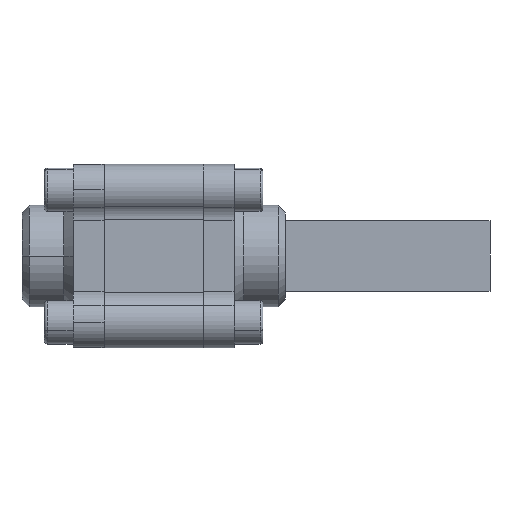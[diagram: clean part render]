
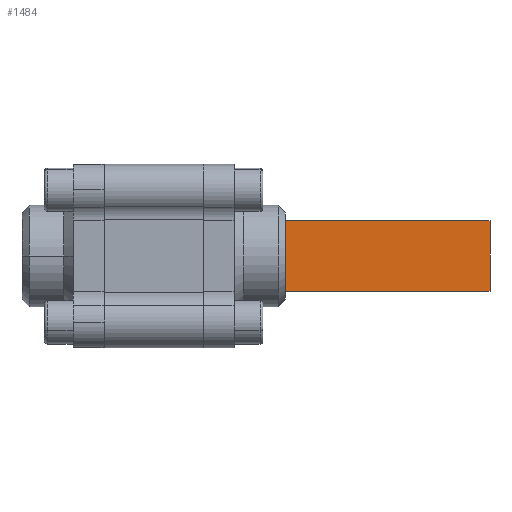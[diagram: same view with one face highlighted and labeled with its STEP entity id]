
A CAD part, front view. The second image highlights one B-rep face of the part: STEP entity #1484.
In plain terms, the highlighted planar face has unit normal (0, -1, 0).
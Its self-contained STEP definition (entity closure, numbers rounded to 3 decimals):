
#147 = AXIS2_PLACEMENT_3D ( 'NONE', #6425, #6435, #6436 ) ;
#557 = EDGE_LOOP ( 'NONE', ( #7184, #7185, #7186, #7187 ) ) ;
#1484 = ADVANCED_FACE ( 'NONE', ( #2011 ), #6426, .T. ) ;
#2011 = FACE_OUTER_BOUND ( 'NONE', #557, .T. ) ;
#2687 = LINE ( 'NONE', #4959, #2727 ) ;
#2712 = LINE ( 'NONE', #4955, #2722 ) ;
#2713 = LINE ( 'NONE', #4951, #2718 ) ;
#2718 = VECTOR ( 'NONE', #4956, 1000. ) ;
#2722 = VECTOR ( 'NONE', #4960, 1000. ) ;
#2727 = VECTOR ( 'NONE', #4966, 1000. ) ;
#2733 = LINE ( 'NONE', #4974, #2734 ) ;
#2734 = VECTOR ( 'NONE', #4975, 1000. ) ;
#3667 = CARTESIAN_POINT ( 'NONE',  ( 54.749, 23.749, -14.7 ) ) ;
#3670 = CARTESIAN_POINT ( 'NONE',  ( 139.749, 23.749, 14.7 ) ) ;
#3674 = CARTESIAN_POINT ( 'NONE',  ( 54.749, 23.749, 14.7 ) ) ;
#3678 = CARTESIAN_POINT ( 'NONE',  ( 139.749, 23.749, -14.7 ) ) ;
#4784 = EDGE_CURVE ( 'NONE', #6772, #6768, #2713, .T. ) ;
#4788 = EDGE_CURVE ( 'NONE', #6765, #6772, #2712, .T. ) ;
#4795 = EDGE_CURVE ( 'NONE', #6776, #6765, #2687, .T. ) ;
#4803 = EDGE_CURVE ( 'NONE', #6768, #6776, #2733, .T. ) ;
#4951 = CARTESIAN_POINT ( 'NONE',  ( 54.749, 23.749, 14.7 ) ) ;
#4955 = CARTESIAN_POINT ( 'NONE',  ( 54.749, 23.749, 14.7 ) ) ;
#4956 = DIRECTION ( 'NONE',  ( 1., 0., 0. ) ) ;
#4959 = CARTESIAN_POINT ( 'NONE',  ( 54.749, 23.749, -14.7 ) ) ;
#4960 = DIRECTION ( 'NONE',  ( 0., 0., 1. ) ) ;
#4966 = DIRECTION ( 'NONE',  ( -1., 0., 0. ) ) ;
#4974 = CARTESIAN_POINT ( 'NONE',  ( 139.749, 23.749, 14.7 ) ) ;
#4975 = DIRECTION ( 'NONE',  ( 0., 0., -1. ) ) ;
#6425 = CARTESIAN_POINT ( 'NONE',  ( 139.749, 23.749, -14.7 ) ) ;
#6426 = PLANE ( 'NONE',  #147 ) ;
#6435 = DIRECTION ( 'NONE',  ( 0., -1., 0. ) ) ;
#6436 = DIRECTION ( 'NONE',  ( 1., 0., 0. ) ) ;
#6765 = VERTEX_POINT ( 'NONE', #3667 ) ;
#6768 = VERTEX_POINT ( 'NONE', #3670 ) ;
#6772 = VERTEX_POINT ( 'NONE', #3674 ) ;
#6776 = VERTEX_POINT ( 'NONE', #3678 ) ;
#7184 = ORIENTED_EDGE ( 'NONE', *, *, #4803, .F. ) ;
#7185 = ORIENTED_EDGE ( 'NONE', *, *, #4784, .F. ) ;
#7186 = ORIENTED_EDGE ( 'NONE', *, *, #4788, .F. ) ;
#7187 = ORIENTED_EDGE ( 'NONE', *, *, #4795, .F. ) ;
